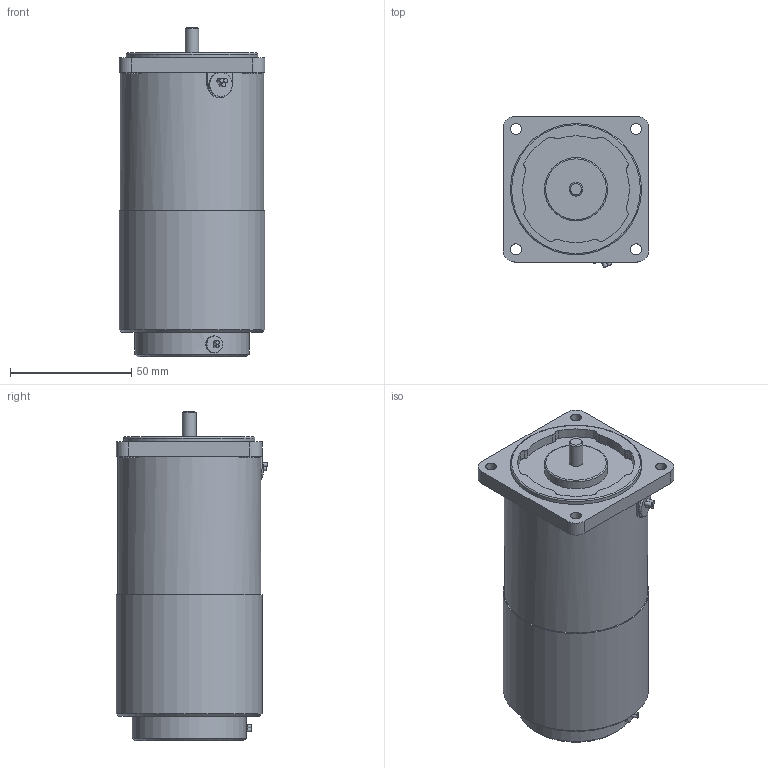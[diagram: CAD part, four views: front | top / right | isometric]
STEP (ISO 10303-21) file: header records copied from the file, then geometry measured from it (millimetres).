
FILE_DESCRIPTION((''),'2;1');
FILE_NAME('E:\2공장-도면\3D\표준형 3D(민규)\step file\D\K6RG6Nㅁ-D.stp','2014-11-17T11:02:25',('AHN'),(''),'Autodesk Inventor 2012','Autodesk Inventor 2012','');
FILE_SCHEMA(('CONFIG_CONTROL_DESIGN'));
Length unit declared in the file: millimetre
Products named in the file (1): K6RG6Nㅁ-D
Bounding box: 60 x 62.29 x 135.5 mm (x, y, z)
Volume: 336046.8 mm3; surface area: 31802.6 mm2
Topology: 1 solids, 1 shells, 86 faces, 195 edges, 121 vertices
Faces by surface type: cylinder 53, plane 28, cone 3, torus 2
Full cylindrical faces by diameter (mm): 1.4 x2, 4.5 x4, 5.64 x1, 7 x1, 8 x4, 10 x1, 26 x1, 47 x1, 54 x1, 59 x1, 60 x1
Entity records: 2390 total; most frequent: DIRECTION 452, CARTESIAN_POINT 424, ORIENTED_EDGE 342, AXIS2_PLACEMENT_3D 196, EDGE_CURVE 171, EDGE_LOOP 128, VERTEX_POINT 116, CIRCLE 109
